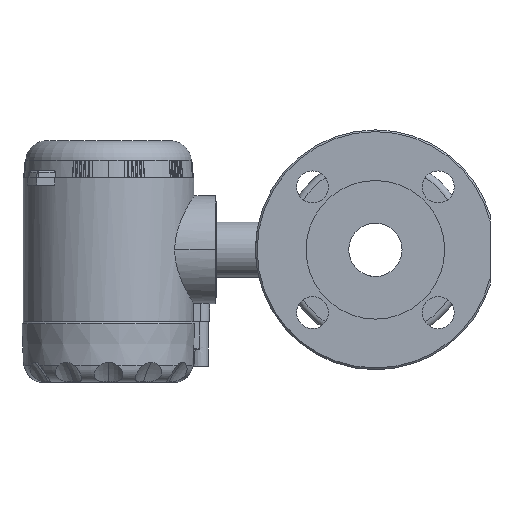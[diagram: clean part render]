
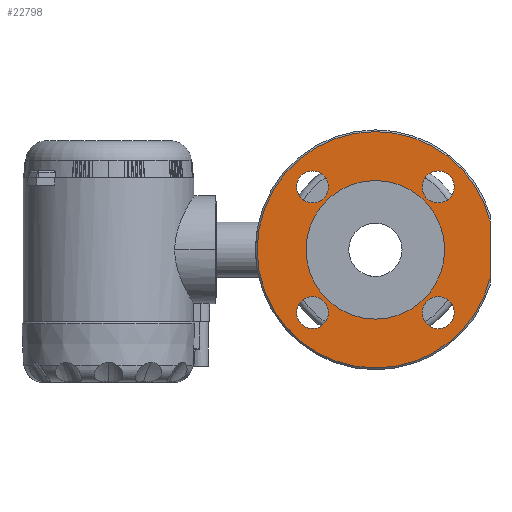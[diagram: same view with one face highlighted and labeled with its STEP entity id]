
A CAD part, left-side view. The second image highlights one B-rep face of the part: STEP entity #22798.
In plain terms, the highlighted planar face has unit normal (-1, 0, 0).
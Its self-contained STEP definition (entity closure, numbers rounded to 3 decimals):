
#126 = VERTEX_POINT ( 'NONE', #8862 ) ;
#450 = AXIS2_PLACEMENT_3D ( 'NONE', #16374, #4658, #18364 ) ;
#1145 = CARTESIAN_POINT ( 'NONE',  ( -95.8, 35.355, -35.355 ) ) ;
#1696 = VERTEX_POINT ( 'NONE', #16017 ) ;
#1749 = DIRECTION ( 'NONE',  ( 0., -1., 0. ) ) ;
#2213 = VERTEX_POINT ( 'NONE', #15027 ) ;
#2384 = VERTEX_POINT ( 'NONE', #10325 ) ;
#2872 = PLANE ( 'NONE',  #25062 ) ;
#3051 = DIRECTION ( 'NONE',  ( 0., 0., 1. ) ) ;
#3174 = DIRECTION ( 'NONE',  ( 0., 0., 1. ) ) ;
#3298 = EDGE_CURVE ( 'NONE', #17573, #22840, #14952, .T. ) ;
#3346 = CARTESIAN_POINT ( 'NONE',  ( -95.8, 35.355, -44.355 ) ) ;
#3415 = DIRECTION ( 'NONE',  ( -1., 0., 0. ) ) ;
#3966 = CARTESIAN_POINT ( 'NONE',  ( -95.8, 0., 0. ) ) ;
#4322 = VERTEX_POINT ( 'NONE', #18492 ) ;
#4401 = DIRECTION ( 'NONE',  ( -1., 0., 0. ) ) ;
#4588 = AXIS2_PLACEMENT_3D ( 'NONE', #3966, #17676, #5974 ) ;
#4658 = DIRECTION ( 'NONE',  ( -1., 0., 0. ) ) ;
#4697 = FACE_OUTER_BOUND ( 'NONE', #17028, .T. ) ;
#4985 = CARTESIAN_POINT ( 'NONE',  ( -95.8, 67.5, 0. ) ) ;
#5107 = EDGE_LOOP ( 'NONE', ( #7006, #7122 ) ) ;
#5240 = CARTESIAN_POINT ( 'NONE',  ( -95.8, -35.355, 26.355 ) ) ;
#5324 = FACE_BOUND ( 'NONE', #14871, .T. ) ;
#5825 = EDGE_CURVE ( 'NONE', #8219, #9517, #20421, .T. ) ;
#5974 = DIRECTION ( 'NONE',  ( 0., 0., -1. ) ) ;
#6310 = CIRCLE ( 'NONE', #12480, 9. ) ;
#6431 = CARTESIAN_POINT ( 'NONE',  ( -95.8, 0., -66.5 ) ) ;
#6623 = DIRECTION ( 'NONE',  ( -1., 0., 0. ) ) ;
#6919 = DIRECTION ( 'NONE',  ( -1., 0., 0. ) ) ;
#6947 = DIRECTION ( 'NONE',  ( 0., 0., -1. ) ) ;
#6996 = CIRCLE ( 'NONE', #24966, 9. ) ;
#7006 = ORIENTED_EDGE ( 'NONE', *, *, #23386, .F. ) ;
#7016 = CIRCLE ( 'NONE', #20199, 9. ) ;
#7122 = ORIENTED_EDGE ( 'NONE', *, *, #5825, .F. ) ;
#7237 = CARTESIAN_POINT ( 'NONE',  ( -95.8, -35.355, -26.355 ) ) ;
#7406 = ORIENTED_EDGE ( 'NONE', *, *, #8435, .F. ) ;
#7546 = ORIENTED_EDGE ( 'NONE', *, *, #3298, .F. ) ;
#7591 = CARTESIAN_POINT ( 'NONE',  ( -95.8, 0., 0. ) ) ;
#7694 = EDGE_LOOP ( 'NONE', ( #7406, #7546 ) ) ;
#7809 = ORIENTED_EDGE ( 'NONE', *, *, #9385, .F. ) ;
#7942 = ORIENTED_EDGE ( 'NONE', *, *, #23522, .F. ) ;
#8044 = AXIS2_PLACEMENT_3D ( 'NONE', #23343, #11554, #25355 ) ;
#8096 = EDGE_CURVE ( 'NONE', #11809, #4322, #20567, .T. ) ;
#8219 = VERTEX_POINT ( 'NONE', #5240 ) ;
#8297 = ORIENTED_EDGE ( 'NONE', *, *, #22420, .F. ) ;
#8398 = ORIENTED_EDGE ( 'NONE', *, *, #14610, .F. ) ;
#8435 = EDGE_CURVE ( 'NONE', #22840, #17573, #7016, .T. ) ;
#8613 = CIRCLE ( 'NONE', #9265, 9. ) ;
#8727 = ORIENTED_EDGE ( 'NONE', *, *, #9078, .F. ) ;
#8855 = ORIENTED_EDGE ( 'NONE', *, *, #19651, .F. ) ;
#8862 = CARTESIAN_POINT ( 'NONE',  ( -95.8, -35.355, -44.355 ) ) ;
#9078 = EDGE_CURVE ( 'NONE', #2213, #24650, #20542, .T. ) ;
#9096 = ORIENTED_EDGE ( 'NONE', *, *, #8096, .T. ) ;
#9174 = ORIENTED_EDGE ( 'NONE', *, *, #11855, .T. ) ;
#9265 = AXIS2_PLACEMENT_3D ( 'NONE', #18356, #6623, #20370 ) ;
#9339 = CIRCLE ( 'NONE', #12173, 39. ) ;
#9362 = EDGE_LOOP ( 'NONE', ( #8297, #8398 ) ) ;
#9385 = EDGE_CURVE ( 'NONE', #11660, #126, #6996, .T. ) ;
#9517 = VERTEX_POINT ( 'NONE', #11175 ) ;
#9535 = DIRECTION ( 'NONE',  ( 0., 0., 1. ) ) ;
#9544 = ORIENTED_EDGE ( 'NONE', *, *, #23599, .T. ) ;
#9639 = ORIENTED_EDGE ( 'NONE', *, *, #12571, .T. ) ;
#9668 = DIRECTION ( 'NONE',  ( -1., 0., 0. ) ) ;
#9813 = CIRCLE ( 'NONE', #22458, 9. ) ;
#9897 = FACE_BOUND ( 'NONE', #13624, .T. ) ;
#10325 = CARTESIAN_POINT ( 'NONE',  ( -95.8, 0., 66.5 ) ) ;
#10822 = DIRECTION ( 'NONE',  ( -1., 0., 0. ) ) ;
#10842 = CARTESIAN_POINT ( 'NONE',  ( -95.8, -64.5, 0. ) ) ;
#11175 = CARTESIAN_POINT ( 'NONE',  ( -95.8, -35.355, 44.355 ) ) ;
#11554 = DIRECTION ( 'NONE',  ( -1., 0., 0. ) ) ;
#11660 = VERTEX_POINT ( 'NONE', #7237 ) ;
#11703 = CARTESIAN_POINT ( 'NONE',  ( -95.8, -35.355, 35.355 ) ) ;
#11809 = VERTEX_POINT ( 'NONE', #25397 ) ;
#11855 = EDGE_CURVE ( 'NONE', #4322, #2384, #19544, .T. ) ;
#12173 = AXIS2_PLACEMENT_3D ( 'NONE', #18657, #6919, #20664 ) ;
#12480 = AXIS2_PLACEMENT_3D ( 'NONE', #1145, #14912, #3174 ) ;
#12571 = EDGE_CURVE ( 'NONE', #15831, #11809, #18582, .T. ) ;
#13495 = DIRECTION ( 'NONE',  ( -1., 0., 0. ) ) ;
#13624 = EDGE_LOOP ( 'NONE', ( #8727, #8855 ) ) ;
#13652 = DIRECTION ( 'NONE',  ( 0., 0., -1. ) ) ;
#13709 = VERTEX_POINT ( 'NONE', #3346 ) ;
#14100 = CARTESIAN_POINT ( 'NONE',  ( -95.8, 0., -39. ) ) ;
#14590 = DIRECTION ( 'NONE',  ( 0., -1., 0. ) ) ;
#14610 = EDGE_CURVE ( 'NONE', #13709, #1696, #8613, .T. ) ;
#14871 = EDGE_LOOP ( 'NONE', ( #7809, #7942 ) ) ;
#14912 = DIRECTION ( 'NONE',  ( -1., 0., 0. ) ) ;
#14952 = CIRCLE ( 'NONE', #16501, 9. ) ;
#15027 = CARTESIAN_POINT ( 'NONE',  ( -95.8, 0., 39. ) ) ;
#15099 = FACE_BOUND ( 'NONE', #9362, .T. ) ;
#15154 = CARTESIAN_POINT ( 'NONE',  ( -95.8, -35.355, -35.355 ) ) ;
#15296 = VECTOR ( 'NONE', #3051, 1000. ) ;
#15831 = VERTEX_POINT ( 'NONE', #6431 ) ;
#16017 = CARTESIAN_POINT ( 'NONE',  ( -95.8, 35.355, -26.355 ) ) ;
#16133 = CARTESIAN_POINT ( 'NONE',  ( -95.8, -35.355, -35.355 ) ) ;
#16374 = CARTESIAN_POINT ( 'NONE',  ( -95.8, -35.355, 35.355 ) ) ;
#16501 = AXIS2_PLACEMENT_3D ( 'NONE', #16753, #10822, #14590 ) ;
#16753 = CARTESIAN_POINT ( 'NONE',  ( -95.8, 35.355, 35.355 ) ) ;
#16835 = AXIS2_PLACEMENT_3D ( 'NONE', #11703, #25521, #13652 ) ;
#17024 = AXIS2_PLACEMENT_3D ( 'NONE', #7591, #21358, #9535 ) ;
#17028 = EDGE_LOOP ( 'NONE', ( #9096, #9174, #9544, #9639 ) ) ;
#17145 = DIRECTION ( 'NONE',  ( 0., 1., 0. ) ) ;
#17573 = VERTEX_POINT ( 'NONE', #21320 ) ;
#17676 = DIRECTION ( 'NONE',  ( -1., 0., 0. ) ) ;
#17977 = AXIS2_PLACEMENT_3D ( 'NONE', #21493, #9668, #23415 ) ;
#18116 = DIRECTION ( 'NONE',  ( 0., 1., 0. ) ) ;
#18127 = CIRCLE ( 'NONE', #450, 9. ) ;
#18356 = CARTESIAN_POINT ( 'NONE',  ( -95.8, 35.355, -35.355 ) ) ;
#18364 = DIRECTION ( 'NONE',  ( 0., 0., -1. ) ) ;
#18492 = CARTESIAN_POINT ( 'NONE',  ( -95.8, -64.5, 16.186 ) ) ;
#18582 = CIRCLE ( 'NONE', #8044, 66.5 ) ;
#18657 = CARTESIAN_POINT ( 'NONE',  ( -95.8, 0., 0. ) ) ;
#18692 = DIRECTION ( 'NONE',  ( 1., 0., 0. ) ) ;
#19544 = CIRCLE ( 'NONE', #4588, 66.5 ) ;
#19651 = EDGE_CURVE ( 'NONE', #24650, #2213, #9339, .T. ) ;
#20199 = AXIS2_PLACEMENT_3D ( 'NONE', #25338, #13495, #1749 ) ;
#20370 = DIRECTION ( 'NONE',  ( 0., 0., 1. ) ) ;
#20378 = FACE_BOUND ( 'NONE', #7694, .T. ) ;
#20421 = CIRCLE ( 'NONE', #16835, 9. ) ;
#20542 = CIRCLE ( 'NONE', #17024, 39. ) ;
#20567 = LINE ( 'NONE', #10842, #15296 ) ;
#20582 = CIRCLE ( 'NONE', #17977, 66.5 ) ;
#20664 = DIRECTION ( 'NONE',  ( 0., 0., 1. ) ) ;
#21320 = CARTESIAN_POINT ( 'NONE',  ( -95.8, 35.355, 26.355 ) ) ;
#21358 = DIRECTION ( 'NONE',  ( -1., 0., 0. ) ) ;
#21493 = CARTESIAN_POINT ( 'NONE',  ( -95.8, 0., 0. ) ) ;
#22420 = EDGE_CURVE ( 'NONE', #1696, #13709, #6310, .T. ) ;
#22458 = AXIS2_PLACEMENT_3D ( 'NONE', #15154, #3415, #17145 ) ;
#22798 = ADVANCED_FACE ( 'NONE', ( #25625, #20378, #5324, #15099, #9897, #4697 ), #2872, .F. ) ;
#22840 = VERTEX_POINT ( 'NONE', #24717 ) ;
#23343 = CARTESIAN_POINT ( 'NONE',  ( -95.8, 0., 0. ) ) ;
#23386 = EDGE_CURVE ( 'NONE', #9517, #8219, #18127, .T. ) ;
#23415 = DIRECTION ( 'NONE',  ( 0., 0., -1. ) ) ;
#23522 = EDGE_CURVE ( 'NONE', #126, #11660, #9813, .T. ) ;
#23599 = EDGE_CURVE ( 'NONE', #2384, #15831, #20582, .T. ) ;
#24650 = VERTEX_POINT ( 'NONE', #14100 ) ;
#24717 = CARTESIAN_POINT ( 'NONE',  ( -95.8, 35.355, 44.355 ) ) ;
#24966 = AXIS2_PLACEMENT_3D ( 'NONE', #16133, #4401, #18116 ) ;
#25062 = AXIS2_PLACEMENT_3D ( 'NONE', #4985, #18692, #6947 ) ;
#25338 = CARTESIAN_POINT ( 'NONE',  ( -95.8, 35.355, 35.355 ) ) ;
#25355 = DIRECTION ( 'NONE',  ( 0., 0., -1. ) ) ;
#25397 = CARTESIAN_POINT ( 'NONE',  ( -95.8, -64.5, -16.186 ) ) ;
#25521 = DIRECTION ( 'NONE',  ( -1., 0., 0. ) ) ;
#25625 = FACE_BOUND ( 'NONE', #5107, .T. ) ;
